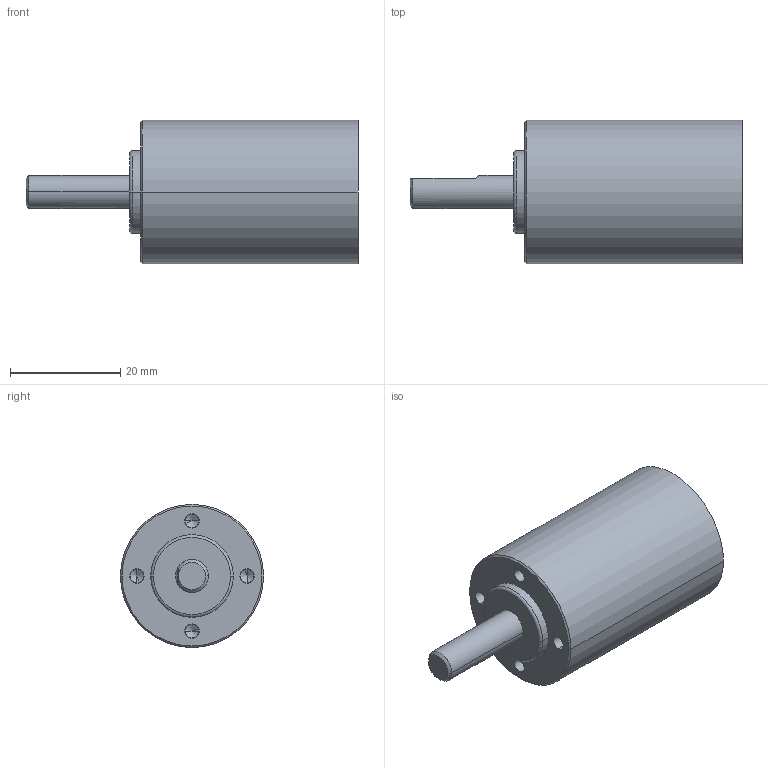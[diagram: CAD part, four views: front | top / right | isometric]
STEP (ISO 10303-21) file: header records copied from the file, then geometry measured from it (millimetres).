
FILE_DESCRIPTION((''),'2;1');
FILE_NAME('1236592','2016-10-07T',('mmagpetk'),(''),'CREO PARAMETRIC BY PTC INC, 2016050','CREO PARAMETRIC BY PTC INC, 2016050','');
FILE_SCHEMA(('CONFIG_CONTROL_DESIGN'));
Length unit declared in the file: millimetre
Products named in the file (1): 1236592
Bounding box: 60.3 x 26 x 26 mm (x, y, z)
Volume: 19769.5 mm3; surface area: 5228.9 mm2
Topology: 1 solids, 1 shells, 53 faces, 115 edges, 64 vertices
Faces by surface type: cone 22, cylinder 21, plane 8, torus 2
Entity records: 1498 total; most frequent: DIRECTION 263, CARTESIAN_POINT 249, ORIENTED_EDGE 214, AXIS2_PLACEMENT_3D 109, EDGE_CURVE 107, VERTEX_POINT 64, EDGE_LOOP 61, COLOUR_RGB 58
